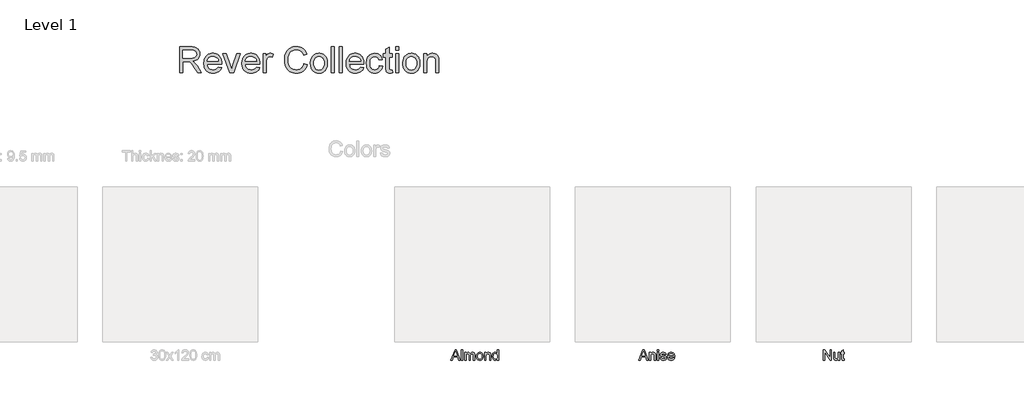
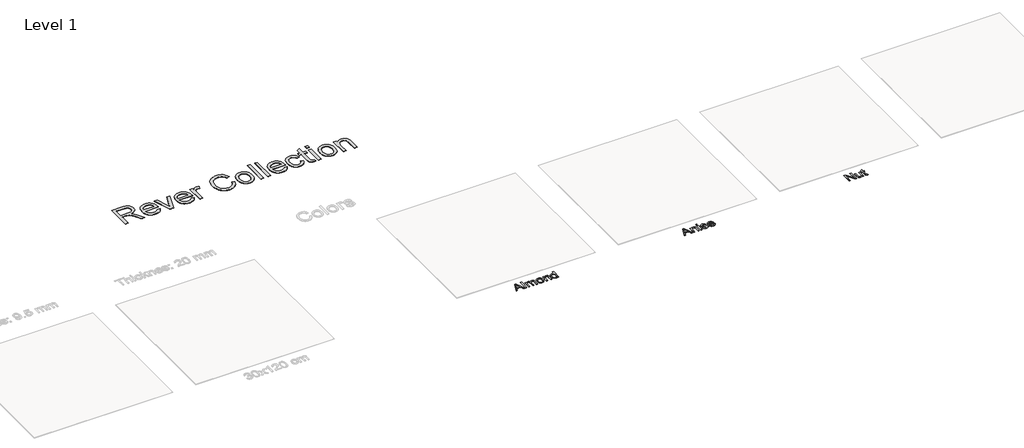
# One storey, part 4 of 5: 4 proxies.
"""IFC4 building model written with IfcOpenShell, lengths in millimetres."""

from ifc_helpers import new_model, si_unit, origin, origin_with_axes, place, context, project, spatial, polyline, outline, extrude, element, save

model = new_model("IFC4")

# Units and contexts
model_context = context("Model", 3, world=origin())
ifc_project = project(units=[si_unit("LENGTHUNIT", "METRE", prefix="MILLI")], contexts=[model_context])

# Site, building, storey
site = spatial("IfcSite", under=ifc_project)
building = spatial("IfcBuilding", under=site)
storey = spatial("IfcBuildingStorey", under=building, Name="Level 1", Elevation=0.0)

# Proxies
placement = place(None, origin())
element("IfcBuildingElementProxy", 1, Name="1000mm Arial", ObjectType="1000mm Arial", at=placement, inside=storey, context=model_context, shape_type="SweptSolid", body=[
    extrude(outline(polyline([(-6993.5646358, 15046.8260502), (-6993.5646358, 16051.3891517), (-6560.6901548, 16051.3891517), (-6498.5564187, 16049.6953617), (-6444.3474739, 16044.6139916), (-6398.0633203, 16036.1450415), (-6359.7039581, 16024.2885114), (-6327.0391026, 16008.1323604), (-6297.8384693, 15986.7645479), (-6272.102058, 15960.1850737), (-6249.8298689, 15928.393938), (-6231.8573006, 15893.1002591), (-6219.0197518, 15856.0131554), (-6211.3172225, 15817.132627), (-6208.7497128, 15776.458674), (-6213.0033483, 15724.8632241), (-6225.7642551, 15677.4984173), (-6247.0324329, 15634.3642533), (-6276.8078819, 15595.4607323), (-6315.4738124, 15562.029456), (-6363.4134349, 15535.3120261), (-6420.6267494, 15515.3084426), (-6487.1137558, 15502.0187056), (-6445.7270313, 15474.9793789), (-6415.7446487, 15448.3079343), (-6364.3024831, 15387.3008367), (-6313.9639634, 15319.0587266), (-6146.4550283, 15046.8260502), (-6292.381553, 15046.8260502), (-6423.1022886, 15255.0472595), (-6475.4028456, 15334.5097704), (-6517.5253341, 15392.8803803), (-6552.6274078, 15433.0714883), (-6583.8667205, 15457.9954935), (-6613.4505643, 15472.6188028), (-6643.5862311, 15481.9078232), (-6716.4268661, 15486.3224071), (-6867.9942481, 15486.3224071), (-6867.9942481, 15046.8260502), (-6993.5646358, 15046.8260502)]), holes=[polyline([(-6867.9942481, 15611.8927948), (-6586.9324038, 15611.8927948), (-6506.2129627, 15616.3380356), (-6443.581053, 15629.6737579), (-6418.3964648, 15639.8978117), (-6396.430844, 15652.7890099), (-6377.6841906, 15668.3473526), (-6362.1565048, 15686.5728398), (-6349.9780779, 15706.5687591), (-6341.2792015, 15727.4383981), (-6336.0598757, 15749.1817569), (-6334.3201005, 15771.7988354), (-6337.6387026, 15803.9118678), (-6347.5945091, 15833.0511875), (-6364.1875199, 15859.2167945), (-6387.4177351, 15882.4086886), (-6417.8216492, 15901.4005966), (-6455.9357567, 15914.9662451), (-6501.7600577, 15923.1056343), (-6555.2945522, 15925.818764), (-6867.9942481, 15925.818764), (-6867.9942481, 15611.8927948)])]), origin_with_axes(), (0.0, 0.0, 1.0), 5.0),
    extrude(outline(polyline([(-5488.1915116, 15266.5742286), (-5365.0736705, 15250.8779302), (-5383.9506154, 15201.5664144), (-5409.4341078, 15158.1103537), (-5441.5241476, 15120.5097481), (-5480.220735, 15088.7645976), (-5525.125331, 15063.5493526), (-5575.8393969, 15045.5384632), (-5632.3629326, 15034.7319296), (-5694.6959382, 15031.1297517), (-5734.7146015, 15032.6836699), (-5772.6102791, 15037.3454246), (-5808.382971, 15045.1150157), (-5842.0326773, 15055.9924432), (-5873.5593978, 15069.9777072), (-5902.9631327, 15087.0708076), (-5930.2438819, 15107.2717445), (-5955.4016454, 15130.5805178), (-5977.9918992, 15156.6943913), (-5997.5701191, 15185.3106287), (-6014.1363052, 15216.4292302), (-6027.6904575, 15250.0501957), (-6038.2325759, 15286.1735251), (-6045.7626605, 15324.7992186), (-6050.2807113, 15365.927276), (-6051.7867282, 15409.5576974), (-6050.2653828, 15454.6730592), (-6045.7013468, 15497.1902544), (-6038.0946202, 15537.1092829), (-6027.4452028, 15574.4301449), (-6013.7530948, 15609.1528403), (-5997.0182961, 15641.2773691), (-5977.2408068, 15670.8037314), (-5954.4206268, 15697.731927), (-5929.1747249, 15721.7592198), (-5902.1200698, 15742.5828736), (-5873.2566616, 15760.2028883), (-5842.5845002, 15774.619264), (-5810.1035858, 15785.8320006), (-5775.8139181, 15793.8410982), (-5739.7154973, 15798.6465568), (-5701.8083234, 15800.2483763), (-5665.1408352, 15798.6503889), (-5630.1862975, 15793.8564266), (-5596.9447103, 15785.8664896), (-5565.4160737, 15774.6805776), (-5535.6003876, 15760.2986909), (-5507.4976521, 15742.7208293), (-5481.1078671, 15721.9469929), (-5456.4310326, 15697.9771817), (-5434.0994459, 15671.1102997), (-5414.7454041, 15641.6452511), (-5398.3689071, 15609.582036), (-5384.9699551, 15574.9206543), (-5374.5485479, 15537.6611059), (-5367.1046857, 15497.803391), (-5361.1495959, 15410.2934614), (-5361.8853599, 15376.4483179), (-5926.2163405, 15376.4483179), (-5918.9430069, 15326.3397244), (-5904.4806459, 15282.4544681), (-5882.8292577, 15244.7925488), (-5853.9888421, 15213.3539667), (-5819.5535545, 15188.5679172), (-5781.1175502, 15170.8635962), (-5738.6808292, 15160.2410036), (-5692.2433915, 15156.7001394), (-5657.5091998, 15158.34028), (-5625.4114958, 15163.2607017), (-5595.9502793, 15171.4614045), (-5569.1255505, 15182.9423884), (-5544.9373093, 15198.0102218), (-5523.3855558, 15216.971473), (-5504.4702898, 15239.8261419), (-5488.1915116, 15266.5742286)]), holes=[polyline([(-5926.2163405, 15502.0187056), (-5486.7199836, 15502.0187056), (-5493.1732469, 15537.5499749), (-5503.703869, 15568.360092), (-5518.3118499, 15594.4490568), (-5536.9971896, 15615.8168694), (-5571.240872, 15641.5686091), (-5610.2057066, 15659.9627088), (-5653.8916936, 15670.9991687), (-5702.2988327, 15674.6779886), (-5746.4523364, 15671.7425969), (-5786.9423485, 15662.9364216), (-5823.768869, 15648.2594628), (-5856.9318981, 15627.7117206), (-5884.7606381, 15602.2435566), (-5905.5842919, 15572.8053328), (-5919.4028594, 15539.3970491), (-5926.2163405, 15502.0187056)])]), origin_with_axes(), (0.0, 0.0, 1.0), 5.0),
    extrude(outline(polyline([(-5054.0907572, 15046.8260502), (-5314.0607005, 15784.5520779), (-5181.3779276, 15784.5520779), (-5023.9244336, 15342.6031743), (-4976.5902836, 15193.9788483), (-4930.2371522, 15334.2645158), (-4772.0478943, 15784.5520779), (-4639.1198667, 15784.5520779), (-4895.41099, 15046.8260502), (-5054.0907572, 15046.8260502)])), origin_with_axes(), (0.0, 0.0, 1.0), 5.0),
    extrude(outline(polyline([(-4012.7394562, 15266.5742286), (-3889.6216152, 15250.8779302), (-3908.4985601, 15201.5664144), (-3933.9820524, 15158.1103537), (-3966.0720923, 15120.5097481), (-4004.7686797, 15088.7645976), (-4049.6732757, 15063.5493526), (-4100.3873416, 15045.5384632), (-4156.9108773, 15034.7319296), (-4219.2438829, 15031.1297517), (-4259.2625461, 15032.6836699), (-4297.1582238, 15037.3454246), (-4332.9309157, 15045.1150157), (-4366.5806219, 15055.9924432), (-4398.1073425, 15069.9777072), (-4427.5110774, 15087.0708076), (-4454.7918266, 15107.2717445), (-4479.9495901, 15130.5805178), (-4502.5398439, 15156.6943913), (-4522.1180638, 15185.3106287), (-4538.6842499, 15216.4292302), (-4552.2384022, 15250.0501957), (-4562.7805206, 15286.1735251), (-4570.3106052, 15324.7992186), (-4574.8286559, 15365.927276), (-4576.3346728, 15409.5576974), (-4574.8133275, 15454.6730592), (-4570.2492915, 15497.1902544), (-4562.6425648, 15537.1092829), (-4551.9931475, 15574.4301449), (-4538.3010395, 15609.1528403), (-4521.5662408, 15641.2773691), (-4501.7887515, 15670.8037314), (-4478.9685715, 15697.731927), (-4453.7226695, 15721.7592198), (-4426.6680145, 15742.5828736), (-4397.8046063, 15760.2028883), (-4367.1324449, 15774.619264), (-4334.6515304, 15785.8320006), (-4300.3618628, 15793.8410982), (-4264.263442, 15798.6465568), (-4226.3562681, 15800.2483763), (-4189.6887799, 15798.6503889), (-4154.7342422, 15793.8564266), (-4121.492655, 15785.8664896), (-4089.9640184, 15774.6805776), (-4060.1483323, 15760.2986909), (-4032.0455968, 15742.7208293), (-4005.6558118, 15721.9469929), (-3980.9789773, 15697.9771817), (-3958.6473906, 15671.1102997), (-3939.2933487, 15641.6452511), (-3922.9168518, 15609.582036), (-3909.5178998, 15574.9206543), (-3899.0964926, 15537.6611059), (-3891.6526304, 15497.803391), (-3885.6975406, 15410.2934614), (-3886.4333046, 15376.4483179), (-4450.7642852, 15376.4483179), (-4443.4909515, 15326.3397244), (-4429.0285906, 15282.4544681), (-4407.3772024, 15244.7925488), (-4378.5367868, 15213.3539667), (-4344.1014992, 15188.5679172), (-4305.6654949, 15170.8635962), (-4263.2287739, 15160.2410036), (-4216.7913362, 15156.7001394), (-4182.0571445, 15158.34028), (-4149.9594404, 15163.2607017), (-4120.498224, 15171.4614045), (-4093.6734952, 15182.9423884), (-4069.485254, 15198.0102218), (-4047.9335004, 15216.971473), (-4029.0182345, 15239.8261419), (-4012.7394562, 15266.5742286)]), holes=[polyline([(-4450.7642852, 15502.0187056), (-4011.2679283, 15502.0187056), (-4017.7211916, 15537.5499749), (-4028.2518137, 15568.360092), (-4042.8597946, 15594.4490568), (-4061.5451343, 15615.8168694), (-4095.7888166, 15641.5686091), (-4134.7536513, 15659.9627088), (-4178.4396382, 15670.9991687), (-4226.8467774, 15674.6779886), (-4271.0002811, 15671.7425969), (-4311.4902932, 15662.9364216), (-4348.3168137, 15648.2594628), (-4381.4798427, 15627.7117206), (-4409.3085828, 15602.2435566), (-4430.1322366, 15572.8053328), (-4443.950804, 15539.3970491), (-4450.7642852, 15502.0187056)])]), origin_with_axes(), (0.0, 0.0, 1.0), 5.0),
    extrude(outline(polyline([(-3760.1271529, 15046.8260502), (-3760.1271529, 15784.5520779), (-3650.2530637, 15784.5520779), (-3650.2530637, 15675.4137526), (-3609.6634169, 15738.6894558), (-3590.5642099, 15760.5784345), (-3572.2620807, 15775.9681646), (-3534.7381172, 15794.1783234), (-3493.7805884, 15800.2483763), (-3462.6332461, 15797.8264865), (-3431.2406492, 15790.5608171), (-3399.6027976, 15778.4513681), (-3367.7196914, 15761.4981395), (-3409.6582388, 15648.926249), (-3453.8040782, 15668.2400537), (-3475.8769979, 15673.0685049), (-3497.9499177, 15674.6779886), (-3517.1947445, 15673.1298186), (-3535.4432243, 15668.4853084), (-3552.6953571, 15660.7444581), (-3568.9511427, 15649.9072676), (-3583.5974447, 15636.3262906), (-3596.0211262, 15620.3540807), (-3614.2006281, 15581.2359619), (-3629.4677309, 15511.0931281), (-3634.5567652, 15434.5736731), (-3634.5567652, 15046.8260502), (-3760.1271529, 15046.8260502)])), origin_with_axes(), (0.0, 0.0, 1.0), 5.0),
    extrude(outline(polyline([(-2174.8010083, 15403.9168402), (-2049.2306206, 15371.5432246), (-2074.0779837, 15293.4526069), (-2107.1720349, 15225.218161), (-2148.5127741, 15166.8398869), (-2172.2756517, 15141.3468143), (-2198.1002014, 15118.3177846), (-2254.8153423, 15080.1730202), (-2317.5392225, 15052.9267599), (-2386.2718419, 15036.5790038), (-2461.0132006, 15031.1297517), (-2537.586305, 15035.2530958), (-2606.6638138, 15047.6231278), (-2668.245727, 15068.239848), (-2722.3320445, 15097.1032562), (-2769.6661945, 15133.7841568), (-2810.9916053, 15177.8533541), (-2846.3082769, 15229.3108482), (-2875.6162091, 15288.156639), (-2898.6318265, 15351.8462094), (-2915.0715531, 15417.8350423), (-2924.9353891, 15486.1231377), (-2928.2233345, 15556.7104955), (-2924.5061935, 15632.4482013), (-2913.3547705, 15703.1888433), (-2894.7690655, 15768.9324215), (-2868.7490786, 15829.6789359), (-2835.8772895, 15884.4243753), (-2796.736178, 15932.1647284), (-2751.3257442, 15972.8999952), (-2699.6459881, 16006.6301756), (-2643.4520134, 16033.0793582), (-2584.4989236, 16051.9716315), (-2522.7867189, 16063.3069955), (-2458.3153993, 16067.0854501), (-2386.4941039, 16062.1956853), (-2320.6355626, 16047.5263907), (-2260.7397752, 16023.0775665), (-2206.8067419, 15988.8492125), (-2159.7255107, 15945.7457054), (-2120.3851299, 15894.6714217), (-2088.7855993, 15835.6263615), (-2064.9269191, 15768.6105247), (-2190.4973068, 15738.6894558), (-2210.270964, 15788.0699494), (-2234.0300096, 15830.2614158), (-2261.7744434, 15865.2638548), (-2293.5042654, 15893.0772664), (-2329.4034168, 15914.2688022), (-2369.6558384, 15929.4056135), (-2414.2615304, 15938.4877002), (-2463.2204925, 15941.5150625), (-2519.5524231, 15938.1581393), (-2571.0712308, 15928.0873696), (-2617.7769158, 15911.3027536), (-2659.669478, 15887.8042912), (-2696.220087, 15858.649643), (-2726.8999126, 15824.89647), (-2751.7089546, 15786.544772), (-2770.6472132, 15743.5945491), (-2784.6497216, 15697.9925101), (-2794.6515134, 15651.6853639), (-2800.6525884, 15604.6731106), (-2802.6529468, 15556.9557502), (-2800.2847064, 15496.990985), (-2793.1799854, 15440.9502944), (-2781.3387837, 15388.8336784), (-2764.7611013, 15340.641137), (-2743.1786909, 15297.3306963), (-2716.3233052, 15259.8603822), (-2684.1949443, 15228.2301949), (-2646.7936081, 15202.4401341), (-2605.9357141, 15182.4288865), (-2563.4376794, 15168.1351381), (-2519.2995042, 15159.5588891), (-2473.5211884, 15156.7001394), (-2418.9290332, 15160.5935572), (-2368.7054766, 15172.2738105), (-2322.8505188, 15191.7408995), (-2281.3641596, 15218.9948239), (-2245.2274178, 15253.9129566), (-2215.421312, 15296.3726703), (-2191.9458421, 15346.3739648), (-2174.8010083, 15403.9168402)])), origin_with_axes(), (0.0, 0.0, 1.0), 5.0),
    extrude(outline(polyline([(-1923.660233, 15415.689064), (-1921.9626108, 15465.1117108), (-1916.8697445, 15511.2310839), (-1908.3816338, 15554.0471831), (-1896.498279, 15593.5600087), (-1881.2196799, 15629.7695605), (-1862.5458365, 15662.6758385), (-1840.4767489, 15692.2788428), (-1815.012417, 15718.5785734), (-1767.1571008, 15754.3091122), (-1714.3353777, 15779.8309256), (-1656.5472476, 15795.1440136), (-1593.7927106, 15800.2483763), (-1558.324671, 15798.6944581), (-1524.5159324, 15794.0327034), (-1492.3664949, 15786.2631123), (-1461.8763585, 15775.3856848), (-1433.0455232, 15761.4004208), (-1405.873989, 15744.3073204), (-1380.3617558, 15724.1063836), (-1356.5088237, 15700.7976103), (-1334.9244973, 15674.7488826), (-1316.218081, 15646.3280824), (-1300.389575, 15615.5352097), (-1287.4389791, 15582.3702647), (-1277.3662935, 15546.8332471), (-1270.171518, 15508.9241572), (-1264.4156976, 15425.9897599), (-1266.9602147, 15358.7746537), (-1274.5937661, 15299.1317852), (-1287.3163518, 15247.0611545), (-1305.1279717, 15202.5627615), (-1327.8063639, 15164.1267572), (-1355.1292662, 15130.2432926), (-1387.0966788, 15100.9123677), (-1423.7086015, 15076.1339825), (-1463.5394917, 15056.4446315), (-1505.1638066, 15042.3808094), (-1548.5815462, 15033.9425162), (-1593.7927106, 15031.1297517), (-1629.8202375, 15032.6779218), (-1664.0811643, 15037.322432), (-1696.5754912, 15045.0632823), (-1727.303218, 15055.9004727), (-1756.2643449, 15069.8340033), (-1783.4588718, 15086.863874), (-1808.8867986, 15106.9900848), (-1832.5481255, 15130.2126358), (-1853.9025257, 15156.3475858), (-1872.4096725, 15185.210994), (-1888.069566, 15216.8028604), (-1900.8822061, 15251.1231848), (-1910.8475928, 15288.1719674), (-1917.9657262, 15327.9492082), (-1923.660233, 15415.689064)]), holes=[polyline([(-1798.0898453, 15415.9343187), (-1794.4570106, 15355.0268559), (-1783.5585065, 15302.289439), (-1765.3943329, 15257.7220681), (-1739.96449, 15221.3247432), (-1709.0317456, 15193.0514791), (-1674.3588676, 15172.8562904), (-1635.9458559, 15160.7391772), (-1593.7927106, 15156.7001394), (-1551.8541632, 15160.7621698), (-1513.5944357, 15172.9482609), (-1479.0135281, 15193.2584127), (-1448.1114405, 15221.6926252), (-1422.6815976, 15258.4501679), (-1404.5174241, 15303.7303102), (-1393.61892, 15357.5330519), (-1389.9860853, 15419.8583933), (-1393.6419126, 15478.8344757), (-1404.6093946, 15530.192335), (-1422.8885312, 15573.9319714), (-1448.4793225, 15610.0533848), (-1479.4963732, 15638.326649), (-1514.0542882, 15658.5218377), (-1552.1530673, 15670.6389509), (-1593.7927106, 15674.6779886), (-1635.9458559, 15670.6542793), (-1674.3588676, 15658.5831513), (-1709.0317456, 15638.4646047), (-1739.96449, 15610.2986395), (-1765.3943329, 15574.0086135), (-1783.5585065, 15529.5178847), (-1794.4570106, 15476.8264531), (-1798.0898453, 15415.9343187)])]), origin_with_axes(), (0.0, 0.0, 1.0), 5.0),
    extrude(outline(polyline([(-1123.1490115, 15046.8260502), (-1123.1490115, 16051.3891517), (-997.5786238, 16051.3891517), (-997.5786238, 15046.8260502), (-1123.1490115, 15046.8260502)])), origin_with_axes(), (0.0, 0.0, 1.0), 5.0),
    extrude(outline(polyline([(-809.2230422, 15046.8260502), (-809.2230422, 16051.3891517), (-683.6526545, 16051.3891517), (-683.6526545, 15046.8260502), (-809.2230422, 15046.8260502)])), origin_with_axes(), (0.0, 0.0, 1.0), 5.0),
    extrude(outline(polyline([(21.2092482, 15266.5742286), (144.3270893, 15250.8779302), (125.4501444, 15201.5664144), (99.966652, 15158.1103537), (67.8766121, 15120.5097481), (29.1800248, 15088.7645976), (-15.7245713, 15063.5493526), (-66.4386371, 15045.5384632), (-122.9621729, 15034.7319296), (-185.2951784, 15031.1297517), (-225.3138417, 15032.6836699), (-263.2095193, 15037.3454246), (-298.9822112, 15045.1150157), (-332.6319175, 15055.9924432), (-364.158638, 15069.9777072), (-393.5623729, 15087.0708076), (-420.8431221, 15107.2717445), (-446.0008857, 15130.5805178), (-468.5911394, 15156.6943913), (-488.1693594, 15185.3106287), (-504.7355455, 15216.4292302), (-518.2896977, 15250.0501957), (-528.8318161, 15286.1735251), (-536.3619007, 15324.7992186), (-540.8799515, 15365.927276), (-542.3859684, 15409.5576974), (-540.8646231, 15454.6730592), (-536.3005871, 15497.1902544), (-528.6938604, 15537.1092829), (-518.0444431, 15574.4301449), (-504.352335, 15609.1528403), (-487.6175364, 15641.2773691), (-467.840047, 15670.8037314), (-445.019867, 15697.731927), (-419.7739651, 15721.7592198), (-392.71931, 15742.5828736), (-363.8559018, 15760.2028883), (-333.1837405, 15774.619264), (-300.702826, 15785.8320006), (-266.4131584, 15793.8410982), (-230.3147376, 15798.6465568), (-192.4075637, 15800.2483763), (-155.7400754, 15798.6503889), (-120.7855377, 15793.8564266), (-87.5439506, 15785.8664896), (-56.0153139, 15774.6805776), (-26.1996279, 15760.2986909), (1.9031077, 15742.7208293), (28.2928927, 15721.9469929), (52.9697271, 15697.9771817), (75.3013139, 15671.1102997), (94.6553557, 15641.6452511), (111.0318526, 15609.582036), (124.4308047, 15574.9206543), (134.8522118, 15537.6611059), (142.2960741, 15497.803391), (148.2511639, 15410.2934614), (147.5153999, 15376.4483179), (-416.8155807, 15376.4483179), (-409.5422471, 15326.3397244), (-395.0798862, 15282.4544681), (-373.4284979, 15244.7925488), (-344.5880823, 15213.3539667), (-310.1527947, 15188.5679172), (-271.7167904, 15170.8635962), (-229.2800695, 15160.2410036), (-182.8426318, 15156.7001394), (-148.1084401, 15158.34028), (-116.010736, 15163.2607017), (-86.5495195, 15171.4614045), (-59.7247907, 15182.9423884), (-35.5365495, 15198.0102218), (-13.984796, 15216.971473), (4.9304699, 15239.8261419), (21.2092482, 15266.5742286)]), holes=[polyline([(-416.8155807, 15502.0187056), (22.6807762, 15502.0187056), (16.2275129, 15537.5499749), (5.6968907, 15568.360092), (-8.9110901, 15594.4490568), (-27.5964298, 15615.8168694), (-61.8401122, 15641.5686091), (-100.8049469, 15659.9627088), (-144.4909338, 15670.9991687), (-192.898073, 15674.6779886), (-237.0515766, 15671.7425969), (-277.5415887, 15662.9364216), (-314.3681093, 15648.2594628), (-347.5311383, 15627.7117206), (-375.3598784, 15602.2435566), (-396.1835322, 15572.8053328), (-410.0020996, 15539.3970491), (-416.8155807, 15502.0187056)])]), origin_with_axes(), (0.0, 0.0, 1.0), 5.0),
    extrude(outline(polyline([(744.7105054, 15313.663124), (870.2808931, 15297.9668256), (856.623274, 15238.7148317), (835.2707899, 15186.2839832), (806.2234407, 15140.67428), (769.4812264, 15101.8857221), (726.5923171, 15070.9299851), (679.1048829, 15048.8187443), (627.0189238, 15035.5519999), (570.3344397, 15031.1297517), (534.2111102, 15032.6721736), (499.9080302, 15037.2994394), (467.4251997, 15045.0115489), (436.7626186, 15055.8085022), (407.920287, 15069.6902994), (380.8982048, 15086.6569404), (355.6963721, 15106.7084252), (332.3147888, 15129.8447538), (311.2477964, 15155.8628247), (292.9897364, 15184.5595363), (277.5406086, 15215.9348888), (264.9004132, 15249.988882), (255.0691501, 15286.721516), (248.0468193, 15326.1327908), (242.4289546, 15412.9912627), (244.8278518, 15470.7257433), (252.0245434, 15524.7354188), (264.0190292, 15575.020289), (280.8113095, 15621.580354), (302.5163472, 15663.4805804), (329.2491055, 15699.7859348), (361.0095844, 15730.4964172), (397.7977839, 15755.6120276), (437.9505709, 15775.1404301), (479.804812, 15789.0892891), (523.3605074, 15797.4586045), (568.617657, 15800.2483763), (624.3287867, 15796.4162722), (674.7209558, 15784.9199598), (719.7941644, 15765.7594393), (759.5484125, 15738.9347104), (793.3092498, 15705.0589101), (820.4022259, 15664.7451748), (840.8273408, 15617.9935045), (854.5845946, 15564.8038994), (729.0142069, 15549.1076009), (719.2116846, 15578.4385258), (706.2361801, 15603.8913614), (690.0876933, 15625.4661076), (670.7662244, 15643.1627644), (648.7622825, 15656.950675), (624.5663771, 15666.7991826), (598.1785082, 15672.7082871), (569.5986757, 15674.6779886), (526.9320285, 15670.7998993), (488.4500389, 15659.1656312), (454.1527071, 15639.7751843), (424.0400329, 15612.6285588), (399.5222308, 15577.0972894), (382.009515, 15532.5529112), (371.5018855, 15478.995424), (367.9993423, 15416.424828), (371.4252434, 15352.9115344), (381.7029467, 15298.7332464), (398.8324521, 15253.889964), (422.8137596, 15218.3816873), (452.3286255, 15191.3960101), (486.0588059, 15172.1205264), (524.0043009, 15160.5552362), (566.1651104, 15156.7001394), (600.1405455, 15159.1067008), (631.188253, 15166.326385), (659.3082331, 15178.3591919), (684.5004855, 15195.2051216), (706.0599033, 15217.048115), (723.2813792, 15244.0721133), (736.1649132, 15276.2771163), (744.7105054, 15313.663124)])), origin_with_axes(), (0.0, 0.0, 1.0), 5.0),
    extrude(outline(polyline([(1246.9920561, 15151.5497915), (1262.6883546, 15043.1472302), (1212.9629716, 15034.1341214), (1168.7558185, 15031.1297517), (1108.484485, 15036.3414133), (1084.0969744, 15042.8559903), (1063.5415679, 15051.9763981), (1031.781089, 15076.0726688), (1020.0395219, 15090.5580224), (1011.0570699, 15106.6681881), (1004.4045372, 15128.2659269), (999.652728, 15159.2139997), (995.8512808, 15249.1611475), (995.8512808, 15658.9816902), (901.67349, 15658.9816902), (901.67349, 15784.5520779), (995.8512808, 15784.5520779), (995.8512808, 15963.8332368), (1121.4216685, 16037.6548905), (1121.4216685, 15784.5520779), (1246.9920561, 15784.5520779), (1246.9920561, 15658.9816902), (1121.4216685, 15658.9816902), (1121.4216685, 15252.8399675), (1123.0771374, 15211.5145567), (1128.0435444, 15188.0927363), (1136.7194281, 15175.124896), (1149.5033274, 15165.1614253), (1167.6215157, 15158.8154609), (1192.3002662, 15156.7001394), (1246.9920561, 15151.5497915)])), origin_with_axes(), (0.0, 0.0, 1.0), 5.0),
    extrude(outline(polyline([(1372.5624438, 15925.818764), (1372.5624438, 16051.3891517), (1498.1328315, 16051.3891517), (1498.1328315, 15925.818764), (1372.5624438, 15925.818764)])), origin_with_axes(), (0.0, 0.0, 1.0), 5.0),
    extrude(outline(polyline([(1372.5624438, 15046.8260502), (1372.5624438, 15784.5520779), (1498.1328315, 15784.5520779), (1498.1328315, 15046.8260502), (1372.5624438, 15046.8260502)])), origin_with_axes(), (0.0, 0.0, 1.0), 5.0),
    extrude(outline(polyline([(1655.0958161, 15415.689064), (1656.7934382, 15465.1117108), (1661.8863046, 15511.2310839), (1670.3744152, 15554.0471831), (1682.2577701, 15593.5600087), (1697.5363692, 15629.7695605), (1716.2102126, 15662.6758385), (1738.2793002, 15692.2788428), (1763.743632, 15718.5785734), (1811.5989482, 15754.3091122), (1864.4206714, 15779.8309256), (1922.2088015, 15795.1440136), (1984.9633385, 15800.2483763), (2020.4313781, 15798.6944581), (2054.2401167, 15794.0327034), (2086.3895542, 15786.2631123), (2116.8796906, 15775.3856848), (2145.7105259, 15761.4004208), (2172.8820601, 15744.3073204), (2198.3942933, 15724.1063836), (2222.2472254, 15700.7976103), (2243.8315518, 15674.7488826), (2262.537968, 15646.3280824), (2278.3664741, 15615.5352097), (2291.3170699, 15582.3702647), (2301.3897556, 15546.8332471), (2308.5845311, 15508.9241572), (2314.3403515, 15425.9897599), (2311.7958343, 15358.7746537), (2304.1622829, 15299.1317852), (2291.4396973, 15247.0611545), (2273.6280773, 15202.5627615), (2250.9496852, 15164.1267572), (2223.6267828, 15130.2432926), (2191.6593703, 15100.9123677), (2155.0474476, 15076.1339825), (2115.2165574, 15056.4446315), (2073.5922425, 15042.3808094), (2030.1745028, 15033.9425162), (1984.9633385, 15031.1297517), (1948.9358116, 15032.6779218), (1914.6748848, 15037.322432), (1882.1805579, 15045.0632823), (1851.452831, 15055.9004727), (1822.4917042, 15069.8340033), (1795.2971773, 15086.863874), (1769.8692505, 15106.9900848), (1746.2079236, 15130.2126358), (1724.8535234, 15156.3475858), (1706.3463766, 15185.210994), (1690.6864831, 15216.8028604), (1677.873843, 15251.1231848), (1667.9084562, 15288.1719674), (1660.7903228, 15327.9492082), (1655.0958161, 15415.689064)]), holes=[polyline([(1780.6662038, 15415.9343187), (1784.2990385, 15355.0268559), (1795.1975426, 15302.289439), (1813.3617161, 15257.7220681), (1838.791559, 15221.3247432), (1869.7243035, 15193.0514791), (1904.3971815, 15172.8562904), (1942.8101932, 15160.7391772), (1984.9633385, 15156.7001394), (2026.9018859, 15160.7621698), (2065.1616134, 15172.9482609), (2099.742521, 15193.2584127), (2130.6446086, 15221.6926252), (2156.0744515, 15258.4501679), (2174.238625, 15303.7303102), (2185.1371291, 15357.5330519), (2188.7699638, 15419.8583933), (2185.1141365, 15478.8344757), (2174.1466545, 15530.192335), (2155.8675178, 15573.9319714), (2130.2767266, 15610.0533848), (2099.2596758, 15638.326649), (2064.7017609, 15658.5218377), (2026.6029818, 15670.6389509), (1984.9633385, 15674.6779886), (1942.8101932, 15670.6542793), (1904.3971815, 15658.5831513), (1869.7243035, 15638.4646047), (1838.791559, 15610.2986395), (1813.3617161, 15574.0086135), (1795.1975426, 15529.5178847), (1784.2990385, 15476.8264531), (1780.6662038, 15415.9343187)])]), origin_with_axes(), (0.0, 0.0, 1.0), 5.0),
    extrude(outline(polyline([(2455.6070376, 15046.8260502), (2455.6070376, 15784.5520779), (2581.1774253, 15784.5520779), (2581.1774253, 15681.5451192), (2601.8937802, 15709.3661951), (2624.8020986, 15733.4777942), (2649.9023805, 15753.8799165), (2677.1946261, 15770.572562), (2706.6788351, 15783.5557308), (2738.3550078, 15792.8294227), (2772.2231439, 15798.3936379), (2808.2832437, 15800.2483763), (2870.1793894, 15794.2702939), (2899.1730891, 15786.7976909), (2926.8638734, 15776.3360466), (2952.2017459, 15763.4448484), (2974.1367098, 15748.6835833), (2992.6687653, 15732.0522515), (3007.7979124, 15713.5508528), (3030.6372529, 15671.0298255), (3045.4445032, 15621.212472), (3050.4109102, 15573.5717536), (3052.0663791, 15499.8114136), (3052.0663791, 15046.8260502), (2926.4959915, 15046.8260502), (2926.4959915, 15482.8888418), (2922.8784852, 15547.820014), (2912.0259663, 15593.9892043), (2903.403732, 15611.4559349), (2892.0070544, 15627.0679271), (2877.8359334, 15640.8251809), (2860.890369, 15652.7276962), (2821.0058293, 15669.1904155), (2774.6833548, 15674.6779886), (2736.5539188, 15671.5969769), (2701.1376126, 15662.3539418), (2668.434436, 15646.9488832), (2638.4443892, 15625.3818013), (2613.3900925, 15595.2001493), (2595.4941663, 15553.9513805), (2584.7566106, 15501.6354951), (2581.1774253, 15438.2524931), (2581.1774253, 15046.8260502), (2455.6070376, 15046.8260502)])), origin_with_axes(), (0.0, 0.0, 1.0), 5.0),
])
element("IfcBuildingElementProxy", 2, Name="400mm Arial", ObjectType="400mm Arial", at=placement, inside=storey, context=model_context, shape_type="SweptSolid", body=[
    extrude(outline(polyline([(3515.3405475, 3905.1077423), (3675.7370974, 4306.9329829), (3718.5095107, 4306.9329829), (3878.8079587, 3905.1077423), (3825.7348495, 3905.1077423), (3779.8231765, 4030.67813), (3614.2272278, 4030.67813), (3568.3155548, 3905.1077423), (3515.3405475, 3905.1077423)]), holes=[polyline([(3632.6703785, 4080.9062851), (3761.4781277, 4080.9062851), (3725.1804375, 4179.6948635), (3697.0252022, 4256.7048278), (3672.0092265, 4188.3278277), (3632.6703785, 4080.9062851)])]), origin_with_axes(), (0.0, 0.0, 1.0), 5.0),
    extrude(outline(polyline([(3926.1911597, 3905.1077423), (3926.1911597, 4306.9329829), (3976.4193148, 4306.9329829), (3976.4193148, 3905.1077423), (3926.1911597, 3905.1077423)])), origin_with_axes(), (0.0, 0.0, 1.0), 5.0),
    extrude(outline(polyline([(4051.7615474, 3905.1077423), (4051.7615474, 4200.1981534), (4101.9897024, 4200.1981534), (4101.9897024, 4151.63773), (4117.0973897, 4173.9436416), (4136.5215591, 4191.4180364), (4159.6000229, 4202.7120137), (4185.6705936, 4206.4766728), (4213.6050998, 4202.6384373), (4235.9968506, 4191.1237308), (4252.7232186, 4172.6928429), (4263.6615766, 4148.1060629), (4281.9698372, 4173.6432047), (4302.8532718, 4191.8840203), (4326.3118804, 4202.8285096), (4352.3456629, 4206.4766728), (4372.4534796, 4204.9591595), (4390.1026183, 4200.4066198), (4405.2930791, 4192.8190537), (4418.0248618, 4182.1964611), (4428.0895, 4168.4162147), (4435.2785273, 4151.3556871), (4439.5919437, 4131.0148785), (4441.0297492, 4107.3937887), (4441.0297492, 3905.1077423), (4390.8015941, 3905.1077423), (4390.8015941, 4085.8113783), (4389.6366345, 4110.8641422), (4386.1417555, 4127.7499258), (4379.593456, 4139.3136832), (4369.2682347, 4148.4003684), (4355.9876946, 4154.2864804), (4340.5734391, 4156.2485177), (4313.3624341, 4151.2207971), (4291.1791498, 4136.1376353), (4282.5737768, 4124.5677465), (4276.4270818, 4109.9689627), (4271.5097258, 4071.6847097), (4271.5097258, 3905.1077423), (4221.2815707, 3905.1077423), (4221.2815707, 4091.4031847), (4218.375303, 4119.8036747), (4209.6564997, 4140.0617099), (4194.3158205, 4152.2018157), (4171.543925, 4156.2485177), (4152.1933321, 4153.5507164), (4134.363318, 4145.4573125), (4119.6480382, 4132.1645097), (4109.6416479, 4113.8685118), (4103.9026888, 4088.4846542), (4101.9897024, 4053.9282721), (4101.9897024, 3905.1077423), (4051.7615474, 3905.1077423)])), origin_with_axes(), (0.0, 0.0, 1.0), 5.0),
    extrude(outline(polyline([(4503.814943, 4052.6529478), (4506.5311384, 4090.8697558), (4514.6797246, 4123.8013257), (4528.2607016, 4151.4476576), (4547.2740694, 4173.8087516), (4566.4161959, 4188.1009671), (4587.5448851, 4198.3096925), (4610.6601372, 4204.4349277), (4635.761952, 4206.4766728), (4663.4726633, 4203.9904036), (4688.5284928, 4196.5315962), (4710.9294406, 4184.1002504), (4730.6755067, 4166.6963663), (4746.7918038, 4144.9085552), (4758.3034446, 4119.3254281), (4765.210429, 4089.9469851), (4767.5127572, 4056.7732262), (4763.4415298, 4006.0300363), (4751.2278475, 3967.4024268), (4731.2273297, 3938.4746393), (4703.7955956, 3916.8309152), (4671.2135136, 3903.329646), (4635.761952, 3898.8292229), (4607.6465705, 3901.306295), (4582.357749, 3908.7375113), (4559.8954875, 3921.1228718), (4540.259786, 3938.4623765), (4524.3151672, 3960.4617198), (4512.9261538, 3986.8265962), (4506.0927457, 4017.5570055), (4503.814943, 4052.6529478)]), holes=[polyline([(4554.0430981, 4052.7510497), (4555.496232, 4028.3880646), (4559.8556336, 4007.2930978), (4567.121303, 3989.4661495), (4577.2932402, 3974.9072195), (4589.666338, 3963.5979139), (4603.5354892, 3955.5198384), (4618.9006939, 3950.6729931), (4635.761952, 3949.057378), (4652.537371, 3950.6821901), (4667.841262, 3955.5566266), (4681.673625, 3963.6806873), (4694.03446, 3975.0543723), (4704.2063972, 3989.7573894), (4711.4720666, 4007.8694463), (4715.8314682, 4029.390543), (4717.2846021, 4054.3206795), (4715.8222712, 4077.9111125), (4711.4352784, 4098.4542562), (4704.1236237, 4115.9501108), (4693.8873072, 4130.3986762), (4681.4804869, 4141.7079818), (4667.657321, 4149.7860573), (4652.4178093, 4154.6329026), (4635.761952, 4156.2485177), (4618.9006939, 4154.639034), (4603.5354892, 4149.8105828), (4589.666338, 4141.7631641), (4577.2932402, 4130.496778), (4567.121303, 4115.9807676), (4559.8556336, 4098.1844761), (4555.496232, 4077.1079035), (4554.0430981, 4052.7510497)])]), origin_with_axes(), (0.0, 0.0, 1.0), 5.0),
    extrude(outline(polyline([(4824.0194316, 3905.1077423), (4824.0194316, 4200.1981534), (4874.2475867, 4200.1981534), (4874.2475867, 4158.9953699), (4891.697456, 4179.7684399), (4912.654467, 4194.606347), (4937.1186197, 4203.5090913), (4965.0899141, 4206.4766728), (4989.8483723, 4204.0854398), (5012.522166, 4196.9117409), (5031.4313005, 4185.8507556), (5044.8957816, 4171.7976633), (5054.0315178, 4154.7892524), (5059.9544179, 4134.862311), (5062.6031683, 4086.3018877), (5062.6031683, 3905.1077423), (5012.3750132, 3905.1077423), (5012.3750132, 4079.532859), (5010.9280107, 4105.5053278), (5006.5870031, 4123.973004), (4998.5794384, 4137.2044931), (4986.1327642, 4147.4684007), (4970.1789483, 4154.0534884), (4951.6499585, 4156.2485177), (4922.2316616, 4151.3188989), (4897.1543723, 4136.5300427), (4887.1326536, 4124.4573819), (4879.9742831, 4107.9578744), (4875.6792608, 4087.0315203), (4874.2475867, 4061.6783195), (4874.2475867, 3905.1077423), (4824.0194316, 3905.1077423)])), origin_with_axes(), (0.0, 0.0, 1.0), 5.0),
    extrude(outline(polyline([(5313.7439436, 3905.1077423), (5313.7439436, 3952.4909433), (5298.7159641, 3929.0139406), (5280.5119367, 3912.244653), (5259.1318614, 3902.1830804), (5234.5757383, 3898.8292229), (5202.1040208, 3903.6852653), (5172.3791556, 3918.2533923), (5147.2160271, 3941.5157971), (5128.4295199, 3972.4546729), (5116.7308725, 4009.8192209), (5112.8313233, 4052.3586422), (5116.4243041, 4094.3707661), (5127.2032466, 4132.3116625), (5145.155888, 4164.0230905), (5170.2699655, 4187.346809), (5200.6447556, 4201.6942068), (5234.3795345, 4206.4766728), (5258.9540518, 4203.0553702), (5280.683615, 4192.7914625), (5299.1022402, 4177.0583759), (5313.7439436, 4157.2295363), (5313.7439436, 4306.9329829), (5363.9720987, 4306.9329829), (5363.9720987, 3905.1077423), (5313.7439436, 3905.1077423)]), holes=[polyline([(5163.0594784, 4052.554846), (5164.4758241, 4028.1979922), (5168.7248611, 4007.1214196), (5175.8065895, 3989.3251281), (5185.7210093, 3974.8091177), (5210.4181539, 3955.4953129), (5224.2934365, 3950.6668617), (5239.1865259, 3949.057378), (5254.1501261, 3950.5932853), (5267.9426352, 3955.2010073), (5292.0143804, 3973.6318953), (5301.5210643, 3987.5409004), (5308.3115528, 4004.6933984), (5313.7439436, 4048.7288732), (5308.213451, 4096.8723637), (5301.3003351, 4115.4074848), (5291.621973, 4130.2515234), (5279.9202599, 4141.6252084), (5266.9370911, 4149.7492691), (5252.6724667, 4154.6237055), (5237.1263868, 4156.2485177), (5221.9389917, 4154.6880849), (5208.0637091, 4150.0067865), (5195.500539, 4142.2046225), (5184.2494813, 4131.2815929), (5174.978855, 4116.9985745), (5168.3569791, 4099.1164438), (5163.0594784, 4052.554846)])]), origin_with_axes(), (0.0, 0.0, 1.0), 5.0),
])
element("IfcBuildingElementProxy", 3, Name="400mm Arial", ObjectType="400mm Arial", at=placement, inside=storey, context=model_context, shape_type="SweptSolid", body=[
    extrude(outline(polyline([(10795.3405475, 3905.1077423), (10955.7370974, 4306.9329829), (10998.5095107, 4306.9329829), (11158.8079587, 3905.1077423), (11105.7348495, 3905.1077423), (11059.8231765, 4030.67813), (10894.2272278, 4030.67813), (10848.3155548, 3905.1077423), (10795.3405475, 3905.1077423)]), holes=[polyline([(10912.6703785, 4080.9062851), (11041.4781277, 4080.9062851), (11005.1804375, 4179.6948635), (10977.0252022, 4256.7048278), (10952.0092265, 4188.3278277), (10912.6703785, 4080.9062851)])]), origin_with_axes(), (0.0, 0.0, 1.0), 5.0),
    extrude(outline(polyline([(11206.1911597, 3905.1077423), (11206.1911597, 4200.1981534), (11256.4193148, 4200.1981534), (11256.4193148, 4158.9953699), (11273.8691841, 4179.7684399), (11294.8261951, 4194.606347), (11319.2903477, 4203.5090913), (11347.2616421, 4206.4766728), (11372.0201004, 4204.0854398), (11394.693894, 4196.9117409), (11413.6030286, 4185.8507556), (11427.0675096, 4171.7976633), (11436.2032458, 4154.7892524), (11442.1261459, 4134.862311), (11444.7748963, 4086.3018877), (11444.7748963, 3905.1077423), (11394.5467412, 3905.1077423), (11394.5467412, 4079.532859), (11393.0997387, 4105.5053278), (11388.7587312, 4123.973004), (11380.7511664, 4137.2044931), (11368.3044922, 4147.4684007), (11352.3506764, 4154.0534884), (11333.8216865, 4156.2485177), (11304.4033897, 4151.3188989), (11279.3261003, 4136.5300427), (11269.3043816, 4124.4573819), (11262.1460112, 4107.9578744), (11257.8509889, 4087.0315203), (11256.4193148, 4061.6783195), (11256.4193148, 3905.1077423), (11206.1911597, 3905.1077423)])), origin_with_axes(), (0.0, 0.0, 1.0), 5.0),
    extrude(outline(polyline([(11513.8386095, 3905.1077423), (11513.8386095, 4200.1981534), (11564.0667646, 4200.1981534), (11564.0667646, 3905.1077423), (11513.8386095, 3905.1077423)])), origin_with_axes(), (0.0, 0.0, 1.0), 5.0),
    extrude(outline(polyline([(11513.8386095, 4256.7048278), (11513.8386095, 4306.9329829), (11564.0667646, 4306.9329829), (11564.0667646, 4256.7048278), (11513.8386095, 4256.7048278)])), origin_with_axes(), (0.0, 0.0, 1.0), 5.0),
    extrude(outline(polyline([(11620.5734391, 3993.0070137), (11670.8015941, 3999.2855331), (11678.7233198, 3977.8012246), (11694.0517362, 3962.0068242), (11716.8849454, 3952.2947396), (11747.3210491, 3949.057378), (11777.3892709, 3952.0249594), (11798.5302229, 3960.9277037), (11811.0382107, 3973.828099), (11815.20754, 3988.7886335), (11811.0136852, 4001.5909269), (11798.432121, 4011.3520625), (11746.7324379, 4025.6749349), (11671.0958997, 4050.2494521), (11651.9537732, 4062.5980244), (11638.084622, 4078.9442478), (11629.6601243, 4098.2457898), (11626.8519584, 4119.4603182), (11629.1083013, 4138.9212757), (11635.8773301, 4156.8861798), (11646.5459079, 4172.6437919), (11660.5008983, 4185.4828736), (11692.4330554, 4200.3453062), (11713.31649, 4204.9438311), (11735.6469271, 4206.4766728), (11768.3393738, 4204.0118634), (11796.7643893, 4196.6174353), (11819.6221239, 4185.0168897), (11835.612728, 4169.9337279), (11846.2077294, 4150.2520412), (11852.8786563, 4124.8559208), (11802.6505012, 4118.5774014), (11796.3106681, 4134.3840644), (11783.7658921, 4146.2911783), (11764.8935458, 4153.7591828), (11739.5710018, 4156.2485177), (11710.7290533, 4153.8695474), (11691.5010877, 4146.7326367), (11680.6853571, 4136.4319409), (11677.0801135, 4124.5616152), (11683.0643273, 4109.9444372), (11701.8017836, 4098.8589264), (11745.0647062, 4088.1658231), (11818.7882581, 4064.5232735), (11838.2614783, 4053.2170336), (11853.0258091, 4037.7414643), (11862.3332235, 4018.0475148), (11865.435695, 3994.0861342), (11861.7936633, 3969.3154132), (11850.867568, 3946.0162202), (11833.0743422, 3926.0157024), (11808.8309187, 3911.141007), (11779.5475119, 3901.9071689), (11746.6343361, 3898.8292229), (11719.6011408, 3900.3130136), (11695.9892481, 3904.7643858), (11675.7986579, 3912.1833393), (11659.0293703, 3922.5698743), (11645.3318973, 3935.8749398), (11634.3567511, 3952.0494849), (11626.1039317, 3971.0935095), (11620.5734391, 3993.0070137)])), origin_with_axes(), (0.0, 0.0, 1.0), 5.0),
    extrude(outline(polyline([(12128.544898, 3993.0070137), (12177.7920344, 3986.7284943), (12170.2412565, 3967.003888), (12160.0478595, 3949.6214637), (12147.2118436, 3934.5812215), (12131.7332086, 3921.8831613), (12113.7713702, 3911.7970633), (12093.4857439, 3904.5927075), (12045.9431273, 3898.8292229), (12014.777391, 3901.3154921), (11987.0084317, 3908.7742995), (11962.6362495, 3921.2056453), (11941.6608444, 3938.6095293), (11924.793455, 3960.5015737), (11912.7453196, 3986.3974005), (11905.5164384, 4016.2970097), (11903.1068113, 4050.2004012), (11905.5409639, 4085.253424), (11912.8434215, 4116.1493802), (11925.0141842, 4142.8882699), (11942.0532519, 4165.470093), (11962.9734747, 4183.4104717), (11986.7877025, 4196.2250278), (12013.4959354, 4203.9137615), (12043.0981732, 4206.4766728), (12071.7469836, 4203.9198929), (12097.6550731, 4196.2495533), (12120.8224418, 4183.465654), (12141.2490896, 4165.5681949), (12157.923341, 4143.0354227), (12169.8335206, 4116.3455839), (12176.9796283, 4085.4986786), (12179.3616643, 4050.4947068), (12179.0673587, 4036.9566494), (11953.3349664, 4036.9566494), (11956.2442999, 4016.913212), (11962.0292442, 3999.3591095), (11970.6897995, 3984.2943418), (11982.2259658, 3971.7189089), (11996.0000808, 3961.8044891), (12011.3744825, 3954.7227607), (12046.924146, 3949.057378), (12073.6569043, 3951.6816029), (12096.1712824, 3959.5542776), (12114.4672803, 3973.1659114), (12128.544898, 3993.0070137)]), holes=[polyline([(11953.3349664, 4087.1848045), (12129.1335092, 4087.1848045), (12122.339955, 4113.721359), (12109.0226268, 4132.70407), (12095.3251538, 4143.0047659), (12079.73922, 4150.3624058), (12062.2648252, 4154.7769897), (12042.9019695, 4156.2485177), (12009.0445632, 4151.5518909), (11981.0487434, 4137.4620105), (11961.5877858, 4115.4994553), (11953.3349664, 4087.1848045)])]), origin_with_axes(), (0.0, 0.0, 1.0), 5.0),
])
element("IfcBuildingElementProxy", 4, Name="400mm Arial", ObjectType="400mm Arial", at=placement, inside=storey, context=model_context, shape_type="SweptSolid", body=[
    extrude(outline(polyline([(17942.0370354, 3905.1077423), (17942.0370354, 4306.9329829), (17995.7968576, 4306.9329829), (18205.7348495, 3988.5924297), (18205.7348495, 4306.9329829), (18255.9630046, 4306.9329829), (18255.9630046, 3905.1077423), (18202.2031824, 3905.1077423), (17992.2651905, 4223.5463973), (17992.2651905, 3905.1077423), (17942.0370354, 3905.1077423)])), origin_with_axes(), (0.0, 0.0, 1.0), 5.0),
    extrude(outline(polyline([(18525.9393381, 3905.1077423), (18525.9393381, 3955.8264067), (18507.7659676, 3930.8901388), (18486.6004901, 3913.0785189), (18462.4429058, 3902.3915469), (18435.2932145, 3898.8292229), (18410.8290618, 3901.3308205), (18388.0571663, 3908.8356132), (18368.9518281, 3920.1173277), (18355.487347, 3933.9496907), (18346.4251872, 3950.7496352), (18340.5268126, 3970.934094), (18337.5837566, 4017.6305819), (18337.5837566, 4200.1981534), (18387.8119117, 4200.1981534), (18387.8119117, 4041.2731315), (18390.8530695, 3990.0639577), (18398.1739212, 3972.9819704), (18410.7186972, 3959.995736), (18427.6535318, 3951.7919675), (18448.1445589, 3949.057378), (18469.8128084, 3951.8532812), (18490.0831063, 3960.2409906), (18506.7972117, 3973.4479543), (18517.7968833, 3990.7016198), (18523.9037244, 4014.3319067), (18525.9393381, 4046.668734), (18525.9393381, 4200.1981534), (18576.1674932, 4200.1981534), (18576.1674932, 3905.1077423), (18525.9393381, 3905.1077423)])), origin_with_axes(), (0.0, 0.0, 1.0), 5.0),
    extrude(outline(polyline([(18751.966036, 3946.9972388), (18758.2445554, 3903.6362143), (18720.6715409, 3898.8292229), (18696.5630075, 3900.9138876), (18678.5858407, 3907.1678815), (18665.8816491, 3916.8063898), (18657.5920415, 3929.0445975), (18653.0303047, 3950.0629221), (18651.5097258, 3986.0417812), (18651.5097258, 4149.9699983), (18613.8386095, 4149.9699983), (18613.8386095, 4200.1981534), (18651.5097258, 4200.1981534), (18651.5097258, 4271.910617), (18701.7378809, 4301.4392784), (18701.7378809, 4200.1981534), (18751.966036, 4200.1981534), (18751.966036, 4149.9699983), (18701.7378809, 4149.9699983), (18701.7378809, 3987.5133092), (18704.3866313, 3961.6144168), (18712.9705445, 3952.4418924), (18730.08932, 3949.057378), (18751.966036, 3946.9972388)])), origin_with_axes(), (0.0, 0.0, 1.0), 5.0),
])

save(model, "model.ifc")
